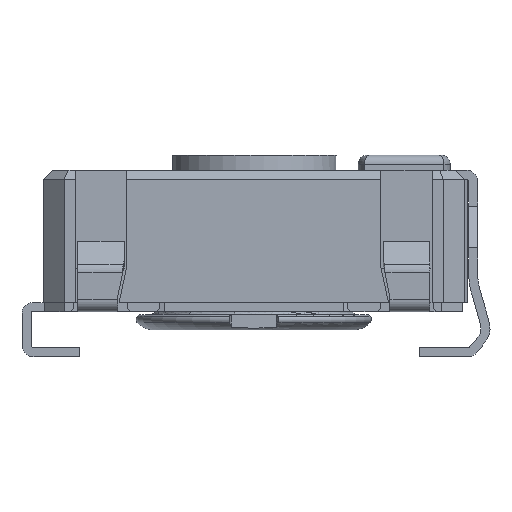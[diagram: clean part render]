
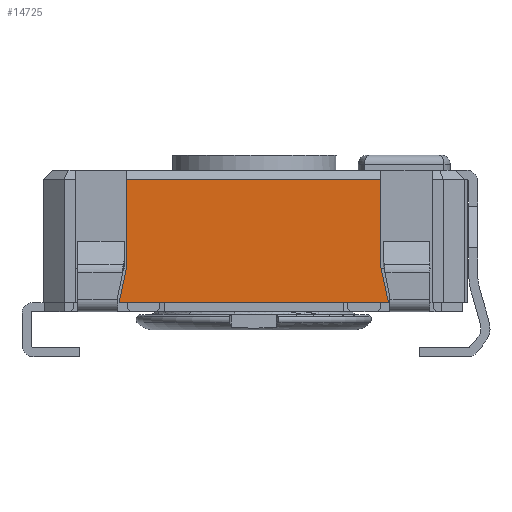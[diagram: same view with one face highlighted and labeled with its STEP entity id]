
A CAD part, left-side view. The second image highlights one B-rep face of the part: STEP entity #14725.
In plain terms, the highlighted planar face has unit normal (-1, 0, 0).
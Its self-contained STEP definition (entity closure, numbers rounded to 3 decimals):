
#982=FACE_OUTER_BOUND('',#1744,.T.);
#1744=EDGE_LOOP('',(#12505,#12506,#12507,#12508,#12509,#12510));
#2360=LINE('',#21427,#3952);
#2961=LINE('',#23251,#4553);
#2965=LINE('',#23258,#4557);
#3317=LINE('',#24011,#4909);
#3322=LINE('',#24019,#4914);
#3323=LINE('',#24021,#4915);
#3952=VECTOR('',#17190,10.);
#4553=VECTOR('',#18705,10.);
#4557=VECTOR('',#18711,10.);
#4909=VECTOR('',#19447,10.);
#4914=VECTOR('',#19454,10.);
#4915=VECTOR('',#19457,10.);
#5871=VERTEX_POINT('',#21424);
#5872=VERTEX_POINT('',#21426);
#6443=VERTEX_POINT('',#23248);
#6444=VERTEX_POINT('',#23250);
#6446=VERTEX_POINT('',#23256);
#6641=VERTEX_POINT('',#24017);
#7416=EDGE_CURVE('',#5871,#5872,#2360,.T.);
#8237=EDGE_CURVE('',#6443,#6444,#2961,.T.);
#8241=EDGE_CURVE('',#6443,#6446,#2965,.T.);
#8616=EDGE_CURVE('',#5872,#6446,#3317,.T.);
#8621=EDGE_CURVE('',#6641,#5871,#3322,.T.);
#8622=EDGE_CURVE('',#6641,#6444,#3323,.T.);
#12505=ORIENTED_EDGE('',*,*,#8237,.F.);
#12506=ORIENTED_EDGE('',*,*,#8241,.T.);
#12507=ORIENTED_EDGE('',*,*,#8616,.F.);
#12508=ORIENTED_EDGE('',*,*,#7416,.F.);
#12509=ORIENTED_EDGE('',*,*,#8621,.F.);
#12510=ORIENTED_EDGE('',*,*,#8622,.T.);
#13285=PLANE('',#15833);
#14725=ADVANCED_FACE('',(#982),#13285,.T.);
#15833=AXIS2_PLACEMENT_3D('',#24055,#19503,#19504);
#17190=DIRECTION('',(0.,1.,0.));
#18705=DIRECTION('',(0.,-1.,0.));
#18711=DIRECTION('',(0.,0.,-1.));
#19447=DIRECTION('',(0.,-0.208,0.978));
#19454=DIRECTION('',(0.,-0.208,-0.978));
#19457=DIRECTION('',(0.,0.,1.));
#19503=DIRECTION('center_axis',(-1.,0.,0.));
#19504=DIRECTION('ref_axis',(0.,0.,1.));
#21424=CARTESIAN_POINT('',(-7.,-4.425,-2.25));
#21426=CARTESIAN_POINT('',(-7.,4.525,-2.25));
#21427=CARTESIAN_POINT('',(-7.,-6.25,-2.25));
#23248=CARTESIAN_POINT('',(-7.,4.275,1.85));
#23250=CARTESIAN_POINT('',(-7.,-4.175,1.85));
#23251=CARTESIAN_POINT('',(-7.,-3.1,1.85));
#23256=CARTESIAN_POINT('',(-7.,4.275,-1.074));
#23258=CARTESIAN_POINT('',(-7.,4.275,-2.25));
#24011=CARTESIAN_POINT('',(-7.,4.525,-2.25));
#24017=CARTESIAN_POINT('',(-7.,-4.175,-1.074));
#24019=CARTESIAN_POINT('',(-7.,-4.175,-1.074));
#24021=CARTESIAN_POINT('',(-7.,-4.175,-2.25));
#24055=CARTESIAN_POINT('Origin',(-7.,-6.25,-2.25));
